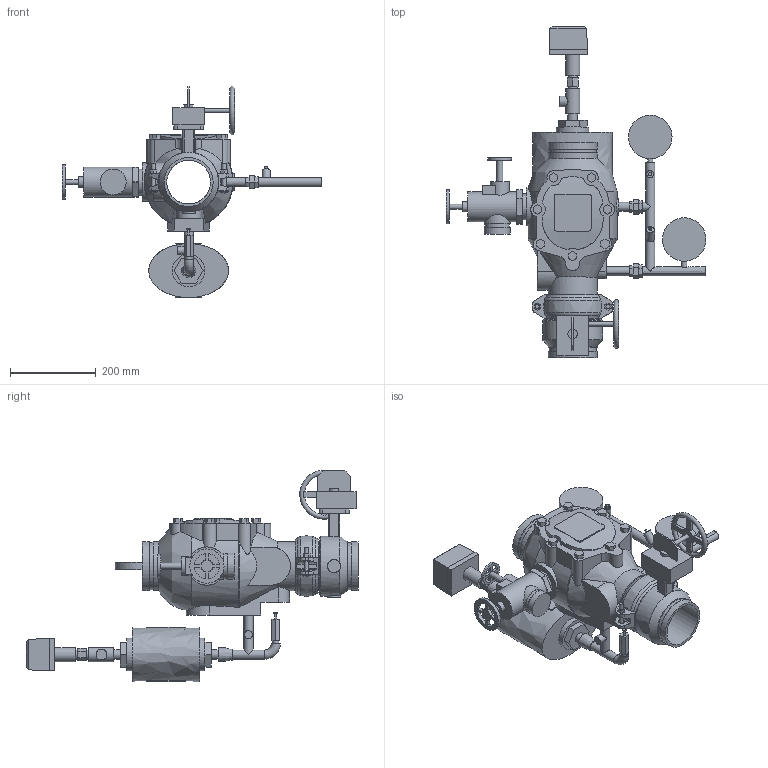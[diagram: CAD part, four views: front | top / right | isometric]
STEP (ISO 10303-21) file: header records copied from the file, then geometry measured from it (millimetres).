
FILE_DESCRIPTION(/* description */ ('VIC FP VALVE ALARM CHECK SERIES 751 (OGS)','CAx-IF Rec.Pracs.---Representation and Presentation of Product Manufacturing Information (PMI)---4.0---2014-10-13'),/* implementation_level */ '2;1');
FILE_NAME(/* name */ 'C:\Users\Vjadhav\AppData\Roaming\Autodesk\ApplicationPlugins\Victaulic.Temp\A404\Victaulic_FP_Valve Alarm Check_Series 751 (OGS)-European Trim_4 (100).stp',/* time_stamp */ '2021-04-19T16:29:53+06:00',/* author */ ('VJadhav'),/* organization */ ('Victaulic'),/* preprocessor_version */ 'ST-DEVELOPER v17.2',/* originating_system */ 'Autodesk Inventor 2019',/* authorisation */ '');
FILE_SCHEMA (('AP242_MANAGED_MODEL_BASED_3D_ENGINEERING_MIM_LF { 1 0 10303 442 1 1 4 }'));
Length unit declared in the file: inch
Products named in the file (4): 751-04.0; 009N-04.0; 751-04.0_1; 705-04.0
Assembly tree (3 placements, depth 2):
  751-04.0
    009N-04.0
    751-04.0_1
    705-04.0
Bounding box: 606.55 x 774.7 x 493.72 mm (x, y, z)
Volume: 9111732.6 mm3; surface area: 1051552.6 mm2
Topology: 6 solids, 7 shells, 562 faces, 1495 edges, 1006 vertices
Faces by surface type: plane 363, cylinder 170, torus 12, bspline 10, cone 5, sphere 2
Full cylindrical faces by diameter (mm): 5 x1, 6.35 x1, 7.62 x1, 8.636 x4, 9.525 x4, 10 x1, 10.16 x1, 10.922 x1, 11.43 x1, 12 x1, 12.7 x1, 14 x1, 15.24 x1, 16.256 x1, 18.7 x1, 18.796 x1, 19.05 x2, 21.336 x11, 22.86 x2, 24 x1, 25 x1, 30.226 x3, 33.02 x2, 35.56 x1, 38.354 x1, 44 x1, 55 x1, 55.118 x1, 57.15 x1, 60.325 x4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
Entity records: 20719 total; most frequent: CARTESIAN_POINT 5671, ORIENTED_EDGE 2990, DIRECTION 2900, EDGE_CURVE 1495, AXIS2_PLACEMENT_3D 1015, VERTEX_POINT 1006, LINE 870, VECTOR 870
